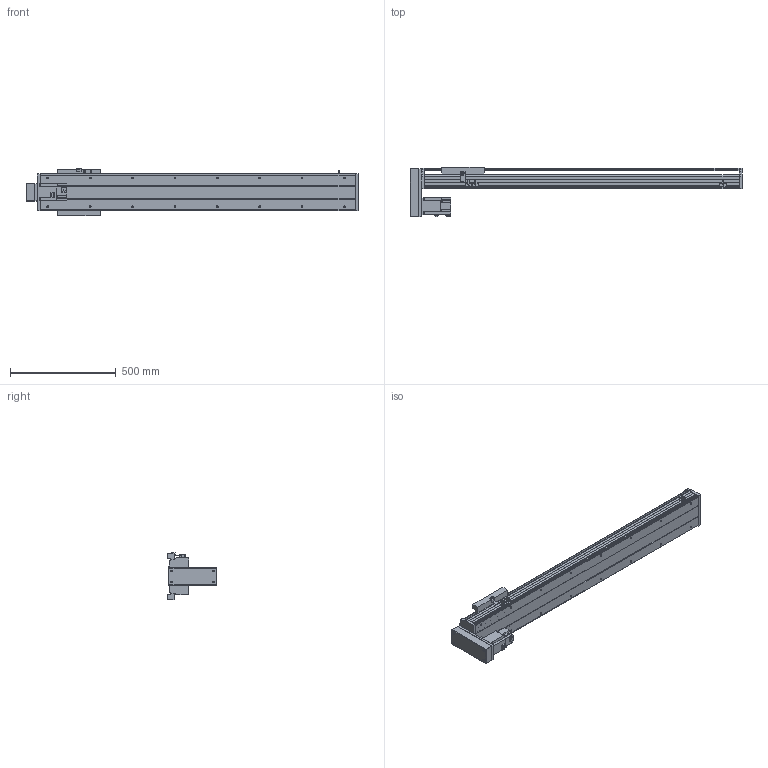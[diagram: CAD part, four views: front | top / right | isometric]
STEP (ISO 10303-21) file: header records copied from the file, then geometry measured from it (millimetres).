
FILE_DESCRIPTION(/* description */ ('STEP AP214'),/* implementation_level */ '2;1');
FILE_NAME(/* name */ 'PSS200-L10-S1150-BM-T75-C1-N(0)',/* time_stamp */ '2022-06-29T09:55:08+02:00',/* author */ ('License CC BY-ND 4.0'),/* organization */ ('CADENAS'),/* preprocessor_version */ 'ST-DEVELOPER v18.102',/* originating_system */ 'PARTsolutions',/* authorisation */ ' ');
FILE_SCHEMA (('AUTOMOTIVE_DESIGN {1 0 10303 214 3 1 1}'));
Length unit declared in the file: millimetre
Products named in the file (8): PSS200-L10-S1150-BM-T75-C1-N(0); PSS200-S1150-BM-N_S; T75-p1; PSS200BM-N_h; PSS200-N_sensor; PSS200-BM-C1-N_sl; PSS200-N_Q; PSS200-S1150-BM-C1-N_body
Assembly tree (9 placements, depth 2):
  PSS200-L10-S1150-BM-T75-C1-N(0)
    PSS200-S1150-BM-N_S
    T75-p1
    PSS200BM-N_h
    PSS200-N_sensor  x3
    PSS200-BM-C1-N_sl
    PSS200-N_Q
    PSS200-S1150-BM-C1-N_body
Bounding box: 1566.85 x 234.45 x 223.86 mm (x, y, z)
Volume: 9920751.1 mm3; surface area: 2428033.7 mm2
Topology: 9 solids, 9 shells, 606 faces, 1625 edges, 1078 vertices
Faces by surface type: plane 452, cylinder 126, cone 24, sphere 4
Full cylindrical faces by diameter (mm): 4 x2, 4.5 x4, 6 x7, 6.647 x20, 7.4 x4, 8 x8, 10 x6, 25 x1, 40 x1, 67 x1
Entity records: 16852 total; most frequent: CARTESIAN_POINT 2917, DIRECTION 2787, ORIENTED_EDGE 2746, EDGE_CURVE 1373, LINE 1071, VECTOR 1071, VERTEX_POINT 956, AXIS2_PLACEMENT_3D 858
